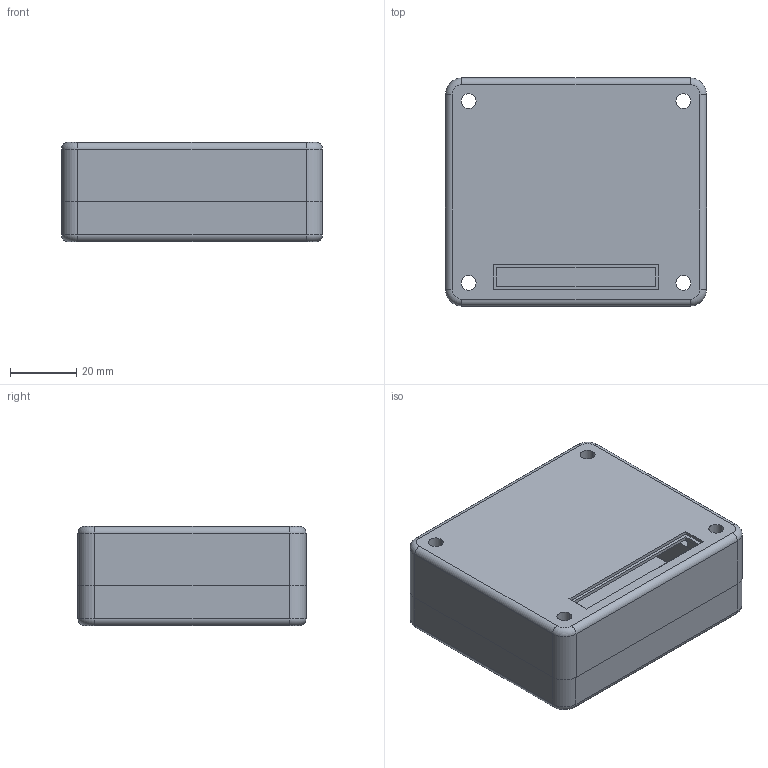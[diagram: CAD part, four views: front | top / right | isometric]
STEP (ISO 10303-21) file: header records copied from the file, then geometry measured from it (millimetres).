
FILE_DESCRIPTION (( 'STEP AP203' ), '1' );
FILE_NAME ('Caixa Assembly.STEP', '2023-12-12T02:57:01', ( '' ), ( '' ), 'SwSTEP 2.0', 'SolidWorks 2023', '' );
FILE_SCHEMA (( 'CONFIG_CONTROL_DESIGN' ));
Length unit declared in the file: millimetre
Products named in the file (3): Caixa Valk-Boss-Extrude2; Caixa Valk-Boss-Extrude3; Caixa Assembly
Assembly tree (2 placements, depth 2):
  Caixa Assembly
    Caixa Valk-Boss-Extrude2
    Caixa Valk-Boss-Extrude3
Bounding box: 79 x 69 x 30 mm (x, y, z)
Volume: 39251.2 mm3; surface area: 39037.9 mm2
Topology: 2 solids, 2 shells, 117 faces, 302 edges, 196 vertices
Faces by surface type: cylinder 56, plane 51, torus 8, cone 2
Entity records: 3937 total; most frequent: DIRECTION 670, CARTESIAN_POINT 620, ORIENTED_EDGE 604, EDGE_CURVE 302, AXIS2_PLACEMENT_3D 246, VERTEX_POINT 196, VECTOR 178, LINE 178
